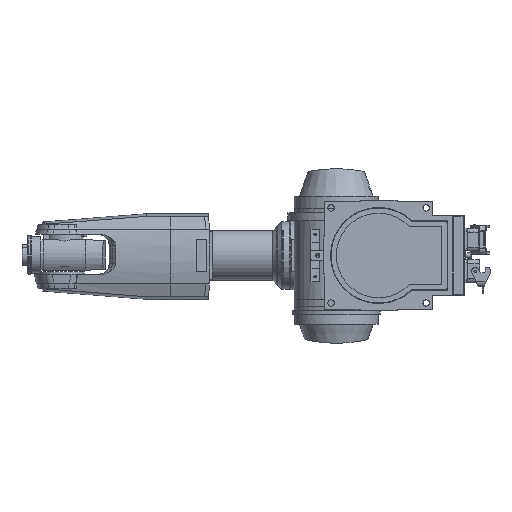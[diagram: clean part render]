
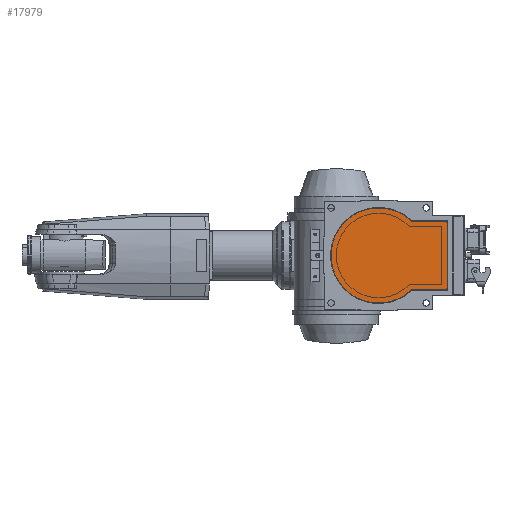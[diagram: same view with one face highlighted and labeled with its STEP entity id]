
A CAD part, front view. The second image highlights one B-rep face of the part: STEP entity #17979.
In plain terms, the highlighted planar face has unit normal (0, -1, 0).
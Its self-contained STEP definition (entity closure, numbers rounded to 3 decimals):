
#6182=DIRECTION('',(1.,0.,0.));
#6183=VECTOR('',#6182,60.774);
#6184=CARTESIAN_POINT('',(64.226,4.8,-65.));
#6185=LINE('',#6184,#6183);
#6194=DIRECTION('',(0.,0.,1.));
#6195=VECTOR('',#6194,120.);
#6196=CARTESIAN_POINT('',(130.,4.8,-60.));
#6197=LINE('',#6196,#6195);
#6202=CARTESIAN_POINT('',(0.,4.8,0.));
#6203=DIRECTION('',(0.,1.,0.));
#6204=DIRECTION('',(0.676,0.,-0.737));
#6205=AXIS2_PLACEMENT_3D('',#6202,#6203,#6204);
#6207=CARTESIAN_POINT('',(64.226,4.8,70.));
#6208=DIRECTION('',(0.,-1.,0.));
#6209=DIRECTION('',(-0.676,0.,-0.737));
#6210=AXIS2_PLACEMENT_3D('',#6207,#6208,#6209);
#6212=DIRECTION('',(1.,0.,0.));
#6213=VECTOR('',#6212,60.774);
#6214=CARTESIAN_POINT('',(64.226,4.8,65.));
#6215=LINE('',#6214,#6213);
#6216=CARTESIAN_POINT('',(125.,4.8,60.));
#6217=DIRECTION('',(0.,1.,0.));
#6218=DIRECTION('',(0.,0.,1.));
#6219=AXIS2_PLACEMENT_3D('',#6216,#6217,#6218);
#6221=CARTESIAN_POINT('',(125.,4.8,-60.));
#6222=DIRECTION('',(0.,1.,0.));
#6223=DIRECTION('',(1.,0.,0.));
#6224=AXIS2_PLACEMENT_3D('',#6221,#6222,#6223);
#6226=CARTESIAN_POINT('',(64.226,4.8,-70.));
#6227=DIRECTION('',(0.,-1.,0.));
#6228=DIRECTION('',(0.,0.,1.));
#6229=AXIS2_PLACEMENT_3D('',#6226,#6227,#6228);
#7116=CARTESIAN_POINT('',(60.846,4.8,66.316));
#7117=CARTESIAN_POINT('',(64.226,4.8,65.));
#7118=VERTEX_POINT('',#7116);
#7119=VERTEX_POINT('',#7117);
#7120=CARTESIAN_POINT('',(60.846,4.8,-66.316));
#7121=VERTEX_POINT('',#7120);
#7122=CARTESIAN_POINT('',(64.226,4.8,-65.));
#7123=VERTEX_POINT('',#7122);
#7124=CARTESIAN_POINT('',(125.,4.8,65.));
#7125=VERTEX_POINT('',#7124);
#7126=CARTESIAN_POINT('',(130.,4.8,60.));
#7127=VERTEX_POINT('',#7126);
#7128=CARTESIAN_POINT('',(130.,4.8,-60.));
#7129=VERTEX_POINT('',#7128);
#7130=CARTESIAN_POINT('',(125.,4.8,-65.));
#7131=VERTEX_POINT('',#7130);
#17964=CARTESIAN_POINT('',(20.,4.8,0.));
#17965=DIRECTION('',(0.,1.,0.));
#17966=DIRECTION('',(1.,0.,0.));
#17967=AXIS2_PLACEMENT_3D('',#17964,#17965,#17966);
#17968=PLANE('',#17967);
#17969=ORIENTED_EDGE('',*,*,#17890,.T.);
#17970=ORIENTED_EDGE('',*,*,#17876,.T.);
#17971=ORIENTED_EDGE('',*,*,#17862,.T.);
#17972=ORIENTED_EDGE('',*,*,#17959,.T.);
#17973=ORIENTED_EDGE('',*,*,#17946,.F.);
#17974=ORIENTED_EDGE('',*,*,#17932,.T.);
#17975=ORIENTED_EDGE('',*,*,#17918,.F.);
#17976=ORIENTED_EDGE('',*,*,#17904,.T.);
#17977=EDGE_LOOP('',(#17969,#17970,#17971,#17972,#17973,#17974,#17975,#17976));
#17978=FACE_OUTER_BOUND('',#17977,.F.);
#6206=CIRCLE('',#6205,90.);
#6211=CIRCLE('',#6210,5.);
#6220=CIRCLE('',#6219,5.);
#6225=CIRCLE('',#6224,5.);
#6230=CIRCLE('',#6229,5.);
#17862=EDGE_CURVE('',#7119,#7125,#6215,.T.);
#17876=EDGE_CURVE('',#7118,#7119,#6211,.T.);
#17890=EDGE_CURVE('',#7121,#7118,#6206,.T.);
#17904=EDGE_CURVE('',#7123,#7121,#6230,.T.);
#17918=EDGE_CURVE('',#7123,#7131,#6185,.T.);
#17932=EDGE_CURVE('',#7129,#7131,#6225,.T.);
#17946=EDGE_CURVE('',#7129,#7127,#6197,.T.);
#17959=EDGE_CURVE('',#7125,#7127,#6220,.T.);
#17979=ADVANCED_FACE('',(#17978),#17968,.F.);
